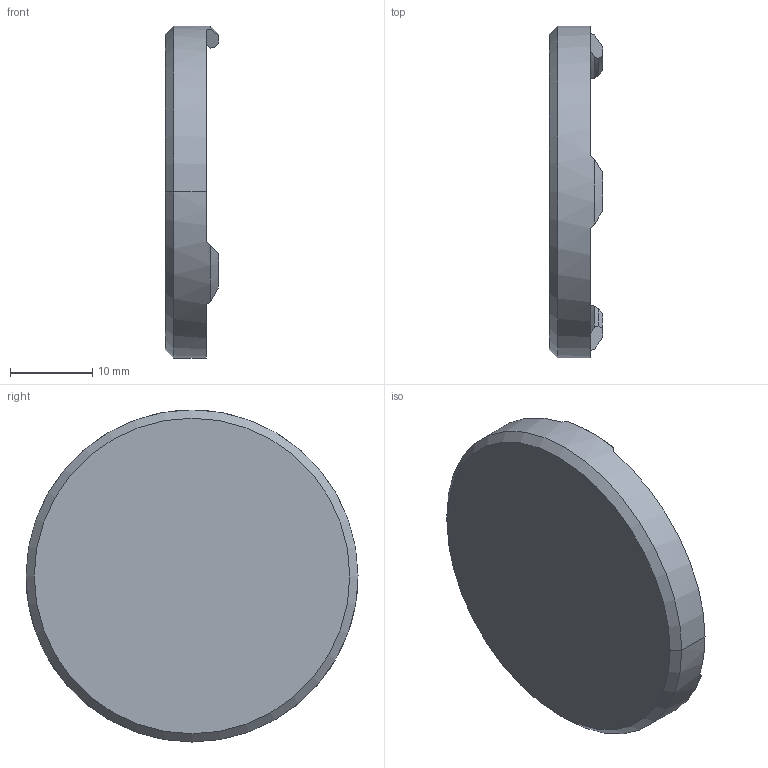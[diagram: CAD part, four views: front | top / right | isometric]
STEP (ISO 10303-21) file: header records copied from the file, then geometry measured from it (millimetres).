
FILE_DESCRIPTION (( 'STEP AP203' ), '1' );
FILE_NAME ('Mushroom Valve Holder_Part 2.STEP', '2025-06-18T14:33:06', ( '' ), ( '' ), 'SwSTEP 2.0', 'SolidWorks 2012', '' );
FILE_SCHEMA (( 'CONFIG_CONTROL_DESIGN' ));
Length unit declared in the file: millimetre
Products named in the file (1): Mushroom Valve Holder_Part 2
Bounding box: 6.5 x 40.4 x 40.4 mm (x, y, z)
Volume: 3280.2 mm3; surface area: 3525.6 mm2
Topology: 1 solids, 1 shells, 32 faces, 82 edges, 52 vertices
Faces by surface type: plane 14, cone 11, cylinder 7
Entity records: 1071 total; most frequent: CARTESIAN_POINT 257, ORIENTED_EDGE 164, DIRECTION 152, EDGE_CURVE 82, AXIS2_PLACEMENT_3D 67, VERTEX_POINT 52, CIRCLE 34, FACE_OUTER_BOUND 32
